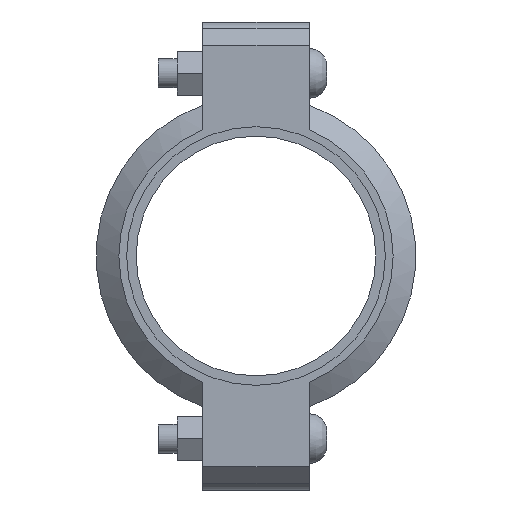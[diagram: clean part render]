
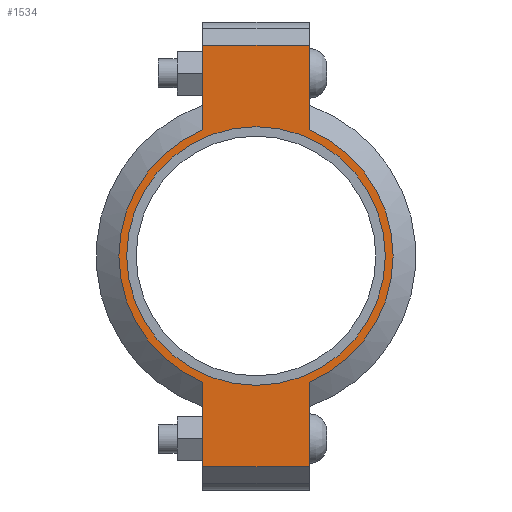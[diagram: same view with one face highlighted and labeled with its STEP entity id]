
A CAD part, left-side view. The second image highlights one B-rep face of the part: STEP entity #1534.
In plain terms, the highlighted planar face has unit normal (-1, 0, 0) as drawn and (0, 0, 1) by its records, which use the part's own axes.
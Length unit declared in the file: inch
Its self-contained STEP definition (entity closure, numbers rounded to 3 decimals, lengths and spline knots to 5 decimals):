
#158=LINE('',#2686,#251);
#166=LINE('',#2722,#259);
#173=LINE('',#2743,#266);
#182=LINE('',#2775,#275);
#183=LINE('',#2779,#276);
#184=LINE('',#2781,#277);
#251=VECTOR('',#2194,0.3937);
#259=VECTOR('',#2210,0.3937);
#266=VECTOR('',#2229,0.3937);
#275=VECTOR('',#2254,0.3937);
#276=VECTOR('',#2259,0.3937);
#277=VECTOR('',#2260,0.3937);
#333=FACE_BOUND('',#511,.T.);
#405=FACE_OUTER_BOUND('',#510,.T.);
#510=EDGE_LOOP('',(#1275,#1276,#1277,#1278,#1279,#1280,#1281,#1282));
#511=EDGE_LOOP('',(#1283));
#583=CIRCLE('',#1762,2.7815);
#609=CIRCLE('',#1821,2.95);
#610=CIRCLE('',#1822,2.95);
#675=VERTEX_POINT('',#2502);
#718=VERTEX_POINT('',#2683);
#719=VERTEX_POINT('',#2685);
#730=VERTEX_POINT('',#2717);
#731=VERTEX_POINT('',#2721);
#738=VERTEX_POINT('',#2740);
#739=VERTEX_POINT('',#2742);
#749=VERTEX_POINT('',#2778);
#750=VERTEX_POINT('',#2780);
#831=EDGE_CURVE('',#675,#675,#583,.T.);
#892=EDGE_CURVE('',#719,#718,#158,.T.);
#906=EDGE_CURVE('',#731,#730,#166,.T.);
#916=EDGE_CURVE('',#739,#738,#173,.T.);
#931=EDGE_CURVE('',#731,#718,#182,.T.);
#932=EDGE_CURVE('',#730,#739,#609,.T.);
#933=EDGE_CURVE('',#749,#738,#183,.T.);
#934=EDGE_CURVE('',#749,#750,#184,.T.);
#935=EDGE_CURVE('',#750,#719,#610,.T.);
#1275=ORIENTED_EDGE('',*,*,#931,.F.);
#1276=ORIENTED_EDGE('',*,*,#906,.T.);
#1277=ORIENTED_EDGE('',*,*,#932,.T.);
#1278=ORIENTED_EDGE('',*,*,#916,.T.);
#1279=ORIENTED_EDGE('',*,*,#933,.F.);
#1280=ORIENTED_EDGE('',*,*,#934,.T.);
#1281=ORIENTED_EDGE('',*,*,#935,.T.);
#1282=ORIENTED_EDGE('',*,*,#892,.T.);
#1283=ORIENTED_EDGE('',*,*,#831,.T.);
#1376=PLANE('',#1820);
#1534=ADVANCED_FACE('',(#405,#333),#1376,.T.);
#1762=AXIS2_PLACEMENT_3D('',#2504,#2070,#2071);
#1820=AXIS2_PLACEMENT_3D('',#2776,#2255,#2256);
#1821=AXIS2_PLACEMENT_3D('',#2777,#2257,#2258);
#1822=AXIS2_PLACEMENT_3D('',#2782,#2261,#2262);
#2070=DIRECTION('center_axis',(0.,0.,-1.));
#2071=DIRECTION('ref_axis',(1.,0.,0.));
#2194=DIRECTION('',(1.,0.,0.));
#2210=DIRECTION('',(-1.,0.,0.));
#2229=DIRECTION('',(-1.,0.,0.));
#2254=DIRECTION('',(0.,-1.,0.));
#2255=DIRECTION('center_axis',(0.,0.,1.));
#2256=DIRECTION('ref_axis',(-1.,0.,0.));
#2257=DIRECTION('center_axis',(0.,0.,1.));
#2258=DIRECTION('ref_axis',(1.,0.,0.));
#2259=DIRECTION('',(0.,1.,0.));
#2260=DIRECTION('',(1.,0.,0.));
#2261=DIRECTION('center_axis',(0.,0.,1.));
#2262=DIRECTION('ref_axis',(1.,0.,0.));
#2502=CARTESIAN_POINT('',(-2.7815,0.,1.065));
#2504=CARTESIAN_POINT('Origin',(0.,0.,1.065));
#2683=CARTESIAN_POINT('',(4.535,-1.15,1.065));
#2685=CARTESIAN_POINT('',(2.71662,-1.15,1.065));
#2686=CARTESIAN_POINT('',(5.035,-1.15,1.065));
#2717=CARTESIAN_POINT('',(2.71662,1.15,1.065));
#2721=CARTESIAN_POINT('',(4.535,1.15,1.065));
#2722=CARTESIAN_POINT('',(-5.035,1.15,1.065));
#2740=CARTESIAN_POINT('',(-4.535,1.15,1.065));
#2742=CARTESIAN_POINT('',(-2.71662,1.15,1.065));
#2743=CARTESIAN_POINT('',(-5.035,1.15,1.065));
#2775=CARTESIAN_POINT('',(4.535,-0.575,1.065));
#2776=CARTESIAN_POINT('Origin',(0.,0.,
1.065));
#2777=CARTESIAN_POINT('Origin',(0.,0.,1.065));
#2778=CARTESIAN_POINT('',(-4.535,-1.15,1.065));
#2779=CARTESIAN_POINT('',(-4.535,0.575,1.065));
#2780=CARTESIAN_POINT('',(-2.71662,-1.15,1.065));
#2781=CARTESIAN_POINT('',(5.035,-1.15,1.065));
#2782=CARTESIAN_POINT('Origin',(0.,0.,1.065));
